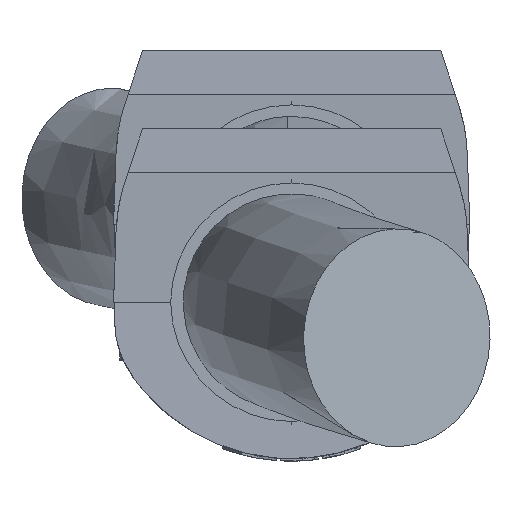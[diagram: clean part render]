
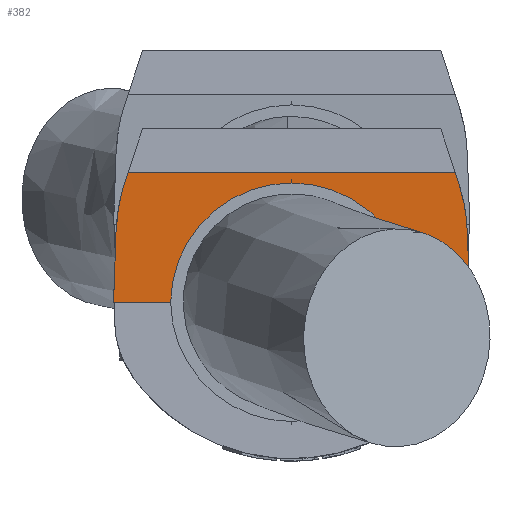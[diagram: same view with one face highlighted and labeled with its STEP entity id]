
A CAD part, top view. The second image highlights one B-rep face of the part: STEP entity #382.
In plain terms, the highlighted planar face has unit normal (0, -0.035, 0.999).
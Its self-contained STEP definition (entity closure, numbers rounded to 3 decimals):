
#54 = EDGE_CURVE ( 'NONE', #7290, #3036, #5738, .T. ) ;
#85 = CARTESIAN_POINT ( 'NONE',  ( 317.218, -369.784, 1404.368 ) ) ;
#273 = CARTESIAN_POINT ( 'NONE',  ( 175.271, -383.61, 1403.885 ) ) ;
#382 = ADVANCED_FACE ( 'NONE', ( #477 ), #10215, .F. ) ;
#411 = CARTESIAN_POINT ( 'NONE',  ( 317.218, -369.784, 1404.368 ) ) ;
#477 = FACE_OUTER_BOUND ( 'NONE', #4970, .T. ) ;
#491 = DIRECTION ( 'NONE',  ( -1., 0., 0. ) ) ;
#737 = EDGE_CURVE ( 'NONE', #3598, #7855, #8961, .T. ) ;
#1105 = LINE ( 'NONE', #8213, #1471 ) ;
#1277 = ORIENTED_EDGE ( 'NONE', *, *, #4173, .F. ) ;
#1302 = LINE ( 'NONE', #10274, #10948 ) ;
#1471 = VECTOR ( 'NONE', #6467, 1000. ) ;
#1566 = VECTOR ( 'NONE', #491, 1000. ) ;
#1826 = DIRECTION ( 'NONE',  ( 0., -0.035, 0.999 ) ) ;
#1920 = VERTEX_POINT ( 'NONE', #85 ) ;
#2326 = EDGE_CURVE ( 'NONE', #4279, #11282, #3347, .T. ) ;
#2346 = ORIENTED_EDGE ( 'NONE', *, *, #3078, .F. ) ;
#2375 = ORIENTED_EDGE ( 'NONE', *, *, #6363, .F. ) ;
#2431 = ORIENTED_EDGE ( 'NONE', *, *, #2326, .F. ) ;
#2438 = CARTESIAN_POINT ( 'NONE',  ( 320.729, -383.61, 1403.885 ) ) ;
#2439 = VECTOR ( 'NONE', #6050, 1000. ) ;
#2700 = CARTESIAN_POINT ( 'NONE',  ( 248., -420.719, 1402.589 ) ) ;
#2701 = CARTESIAN_POINT ( 'NONE',  ( 175.021, -390.756, 1403.635 ) ) ;
#2968 = ORIENTED_EDGE ( 'NONE', *, *, #737, .F. ) ;
#3036 = VERTEX_POINT ( 'NONE', #3782 ) ;
#3078 = EDGE_CURVE ( 'NONE', #11282, #10361, #1105, .T. ) ;
#3085 = ORIENTED_EDGE ( 'NONE', *, *, #8302, .F. ) ;
#3169 = ORIENTED_EDGE ( 'NONE', *, *, #11240, .F. ) ;
#3268 = DIRECTION ( 'NONE',  ( 0., 0.035, -0.999 ) ) ;
#3290 = VECTOR ( 'NONE', #11170, 1000. ) ;
#3321 = CIRCLE ( 'NONE', #4243, 50.294 ) ;
#3347 = LINE ( 'NONE', #5796, #3290 ) ;
#3417 = CARTESIAN_POINT ( 'NONE',  ( 315.964, -366., 1404.5 ) ) ;
#3598 = VERTEX_POINT ( 'NONE', #11508 ) ;
#3770 = CARTESIAN_POINT ( 'NONE',  ( 322., -420., 1402.614 ) ) ;
#3782 = CARTESIAN_POINT ( 'NONE',  ( 298.289, -420., 1402.614 ) ) ;
#4150 = ORIENTED_EDGE ( 'NONE', *, *, #9382, .F. ) ;
#4173 = EDGE_CURVE ( 'NONE', #1920, #6007, #6442, .T. ) ;
#4175 = DIRECTION ( 'NONE',  ( 0.314, -0.949, -0.033 ) ) ;
#4243 = AXIS2_PLACEMENT_3D ( 'NONE', #2700, #1826, #6309 ) ;
#4279 = VERTEX_POINT ( 'NONE', #10413 ) ;
#4407 = CARTESIAN_POINT ( 'NONE',  ( 174., -420., 1402.614 ) ) ;
#4578 = CARTESIAN_POINT ( 'NONE',  ( 176.533, -376.571, 1404.131 ) ) ;
#4749 = ORIENTED_EDGE ( 'NONE', *, *, #6530, .F. ) ;
#4937 = LINE ( 'NONE', #7788, #7661 ) ;
#4943 = CARTESIAN_POINT ( 'NONE',  ( 319.467, -376.571, 1404.131 ) ) ;
#4970 = EDGE_LOOP ( 'NONE', ( #4749, #7203, #3085, #1277, #3169, #8077, #2968, #2375, #2346, #2431, #4150 ) ) ;
#5124 = CARTESIAN_POINT ( 'NONE',  ( 148., -366., 1404.5 ) ) ;
#5213 = CARTESIAN_POINT ( 'NONE',  ( 248., -420.719, 1402.589 ) ) ;
#5467 = VECTOR ( 'NONE', #5573, 1000. ) ;
#5573 = DIRECTION ( 'NONE',  ( 0.314, 0.949, 0.033 ) ) ;
#5738 = LINE ( 'NONE', #6672, #1566 ) ;
#5796 = CARTESIAN_POINT ( 'NONE',  ( 174., -420., 1402.614 ) ) ;
#5944 = LINE ( 'NONE', #5124, #2439 ) ;
#6007 = VERTEX_POINT ( 'NONE', #7049 ) ;
#6050 = DIRECTION ( 'NONE',  ( 1., 0., 0. ) ) ;
#6176 = DIRECTION ( 'NONE',  ( 0., 0.999, 0.035 ) ) ;
#6309 = DIRECTION ( 'NONE',  ( 0., 0.999, 0.035 ) ) ;
#6363 = EDGE_CURVE ( 'NONE', #10361, #3598, #7192, .T. ) ;
#6442 =( BOUNDED_CURVE ( )  B_SPLINE_CURVE ( 3, ( #411, #4943, #2438, #8447 ),
 .UNSPECIFIED., .F., .F. ) 
 B_SPLINE_CURVE_WITH_KNOTS ( ( 4, 4 ),
 ( 1.251, 1.536 ),
 .UNSPECIFIED. ) 
 CURVE ( )  GEOMETRIC_REPRESENTATION_ITEM ( )  RATIONAL_B_SPLINE_CURVE ( ( 1., 0.993, 0.993, 1. ) ) 
 REPRESENTATION_ITEM ( '' )  );
#6467 = DIRECTION ( 'NONE',  ( 0.035, 0.999, 0.035 ) ) ;
#6530 = EDGE_CURVE ( 'NONE', #3036, #8901, #11199, .T. ) ;
#6672 = CARTESIAN_POINT ( 'NONE',  ( 174., -420., 1402.614 ) ) ;
#6859 = CARTESIAN_POINT ( 'NONE',  ( 248., -370.456, 1404.344 ) ) ;
#6931 = EDGE_CURVE ( 'NONE', #7855, #7597, #5944, .T. ) ;
#7049 = CARTESIAN_POINT ( 'NONE',  ( 320.979, -390.756, 1403.635 ) ) ;
#7078 = DIRECTION ( 'NONE',  ( 0., -0.035, 0.999 ) ) ;
#7192 =( BOUNDED_CURVE ( )  B_SPLINE_CURVE ( 3, ( #11063, #273, #4578, #9075 ),
 .UNSPECIFIED., .F., .F. ) 
 B_SPLINE_CURVE_WITH_KNOTS ( ( 4, 4 ),
 ( 4.747, 5.032 ),
 .UNSPECIFIED. ) 
 CURVE ( )  GEOMETRIC_REPRESENTATION_ITEM ( )  RATIONAL_B_SPLINE_CURVE ( ( 1., 0.993, 0.993, 1. ) ) 
 REPRESENTATION_ITEM ( '' )  );
#7203 = ORIENTED_EDGE ( 'NONE', *, *, #54, .F. ) ;
#7290 = VERTEX_POINT ( 'NONE', #3770 ) ;
#7597 = VERTEX_POINT ( 'NONE', #3417 ) ;
#7661 = VECTOR ( 'NONE', #4175, 1000. ) ;
#7788 = CARTESIAN_POINT ( 'NONE',  ( 317.685, -371.194, 1404.319 ) ) ;
#7855 = VERTEX_POINT ( 'NONE', #9413 ) ;
#8077 = ORIENTED_EDGE ( 'NONE', *, *, #6931, .F. ) ;
#8213 = CARTESIAN_POINT ( 'NONE',  ( 174.968, -392.294, 1403.582 ) ) ;
#8229 = DIRECTION ( 'NONE',  ( 0.035, -0.999, -0.035 ) ) ;
#8302 = EDGE_CURVE ( 'NONE', #6007, #7290, #1302, .T. ) ;
#8447 = CARTESIAN_POINT ( 'NONE',  ( 320.979, -390.756, 1403.635 ) ) ;
#8776 = DIRECTION ( 'NONE',  ( 0., 0.999, 0.035 ) ) ;
#8901 = VERTEX_POINT ( 'NONE', #6859 ) ;
#8961 = LINE ( 'NONE', #9948, #5467 ) ;
#9075 = CARTESIAN_POINT ( 'NONE',  ( 178.782, -369.784, 1404.368 ) ) ;
#9382 = EDGE_CURVE ( 'NONE', #8901, #4279, #3321, .T. ) ;
#9413 = CARTESIAN_POINT ( 'NONE',  ( 180.036, -366., 1404.5 ) ) ;
#9622 = CARTESIAN_POINT ( 'NONE',  ( 148., -424.658, 1402.452 ) ) ;
#9948 = CARTESIAN_POINT ( 'NONE',  ( 178.315, -371.194, 1404.319 ) ) ;
#10215 = PLANE ( 'NONE',  #11071 ) ;
#10261 = AXIS2_PLACEMENT_3D ( 'NONE', #5213, #7078, #8776 ) ;
#10274 = CARTESIAN_POINT ( 'NONE',  ( 322.052, -421.502, 1402.562 ) ) ;
#10361 = VERTEX_POINT ( 'NONE', #2701 ) ;
#10413 = CARTESIAN_POINT ( 'NONE',  ( 197.711, -420., 1402.614 ) ) ;
#10948 = VECTOR ( 'NONE', #8229, 1000. ) ;
#11063 = CARTESIAN_POINT ( 'NONE',  ( 175.021, -390.756, 1403.635 ) ) ;
#11071 = AXIS2_PLACEMENT_3D ( 'NONE', #9622, #3268, #6176 ) ;
#11170 = DIRECTION ( 'NONE',  ( -1., 0., 0. ) ) ;
#11199 = CIRCLE ( 'NONE', #10261, 50.294 ) ;
#11240 = EDGE_CURVE ( 'NONE', #7597, #1920, #4937, .T. ) ;
#11282 = VERTEX_POINT ( 'NONE', #4407 ) ;
#11508 = CARTESIAN_POINT ( 'NONE',  ( 178.782, -369.784, 1404.368 ) ) ;
